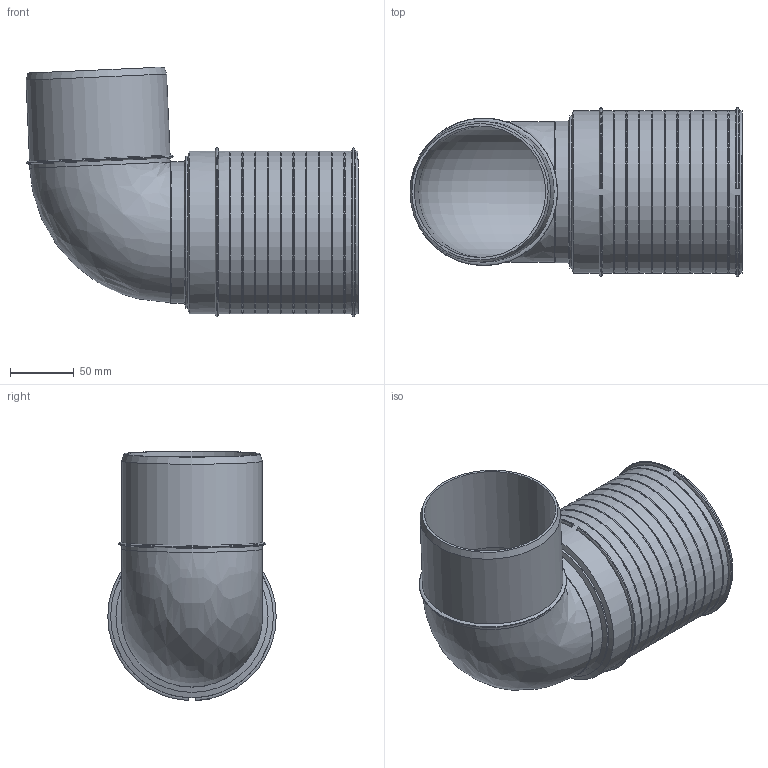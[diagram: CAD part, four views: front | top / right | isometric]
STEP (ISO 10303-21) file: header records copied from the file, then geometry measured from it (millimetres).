
FILE_DESCRIPTION(/* description */ (''),/* implementation_level */ '2;1');
FILE_NAME(/* name */ 'Z:\Geberit\Export\NewStep\390593.stp',/* time_stamp */ '2014-04-02T08:15:17+02:00',/* author */ ('ML'),/* organization */ (''),/* preprocessor_version */ 'ST-DEVELOPER v15.2',/* originating_system */ 'Autodesk Inventor 2014',/* authorisation */ '');
FILE_SCHEMA (('AUTOMOTIVE_DESIGN { 1 0 10303 214 3 1 1 }'));
Length unit declared in the file: millimetre
Products named in the file (3): 861335w; 861398; 390593
Bounding box: 260.05 x 132.49 x 195.65 mm (x, y, z)
Volume: 405794.9 mm3; surface area: 232542.2 mm2
Topology: 2 solids, 2 shells, 73 faces, 159 edges, 90 vertices
Faces by surface type: cone 24, cylinder 20, torus 16, plane 12, bspline 1
Full cylindrical faces by diameter (mm): 103 x2, 103.56 x1, 110.2 x3, 110.76 x1, 119.13 x1, 120.3 x1, 127.5 x11
Entity records: 1892 total; most frequent: DIRECTION 348, CARTESIAN_POINT 343, ORIENTED_EDGE 202, AXIS2_PLACEMENT_3D 170, EDGE_LOOP 129, EDGE_CURVE 101, CIRCLE 93, VERTEX_POINT 84
